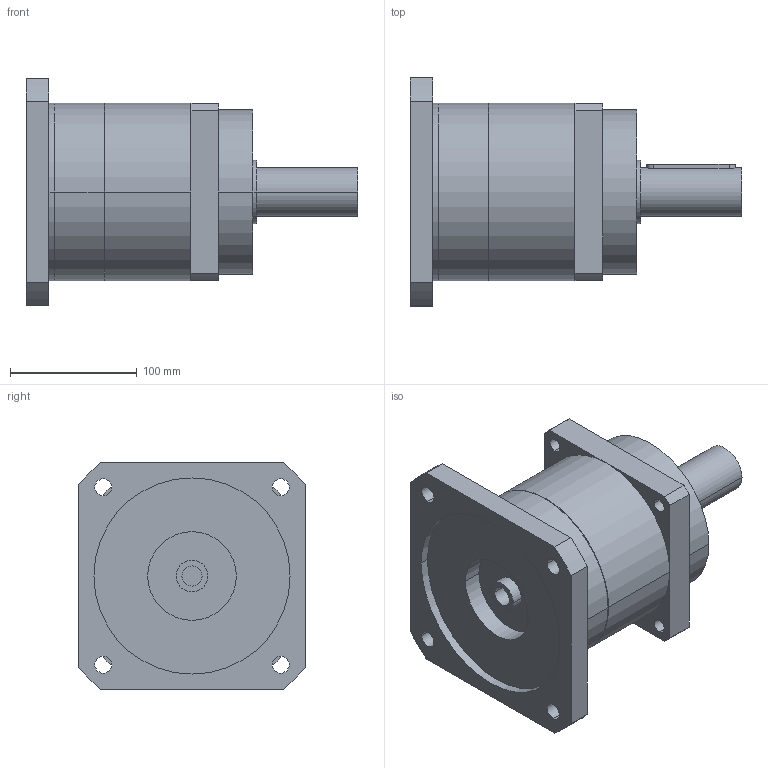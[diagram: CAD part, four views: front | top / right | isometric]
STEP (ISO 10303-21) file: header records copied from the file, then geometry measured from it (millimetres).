
FILE_DESCRIPTION(('CoCreate Modeling STEP Export'),'2;1');
FILE_NAME('GPR150_ig-3-4-5-7_38_B5_16_P11.stp','2014-08-19T16:41:55',(''),(''),'CoCreate Modeling STEP processor for AP214 (Solid Model)','CoCreate Modeling 16.00C 25-Feb-2009 (C) Parametric Technology GmbH','');
FILE_SCHEMA(('AUTOMOTIVE_DESIGN { 1 0 10303 214 1 1 1 1 }'));
Length unit declared in the file: millimetre
Products named in the file (2): GPR150_ig-3-4-5-7_38_B5_16_P11
Assembly tree (1 placements, depth 2):
  GPR150_ig-3-4-5-7_38_B5_16_P11
    GPR150_ig-3-4-5-7_38_B5_16_P11
Bounding box: 262 x 180 x 180 mm (x, y, z)
Volume: 2969520.7 mm3; surface area: 181314.6 mm2
Topology: 1 solids, 1 shells, 81 faces, 221 edges, 151 vertices
Faces by surface type: cylinder 48, plane 27, cone 6
Entity records: 2330 total; most frequent: ORIENTED_EDGE 438, CARTESIAN_POINT 432, DIRECTION 330, EDGE_CURVE 219, VERTEX_POINT 151, AXIS2_PLACEMENT_3D 121, EDGE_LOOP 108, VECTOR 88
